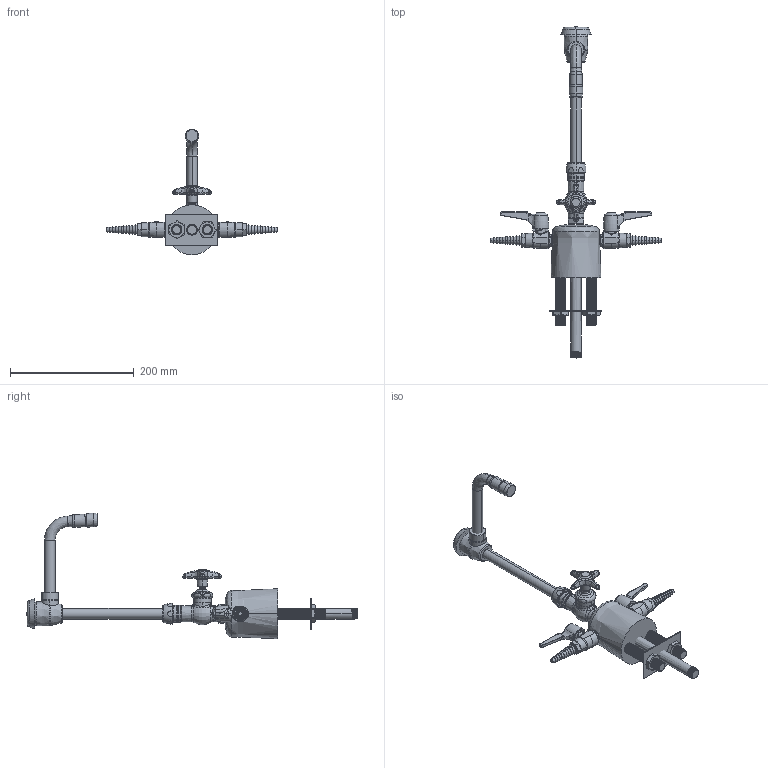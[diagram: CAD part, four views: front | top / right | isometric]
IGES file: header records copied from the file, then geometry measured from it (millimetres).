
Start section:  PTC IGES file: LCF1-CB-C1B2.igs
Global section: file name: LCF1-CB-C1B2.igs; native system: Creo Parametric by PTC Inc.; preprocessor: 2014500; author: usch_engrender; organization: Unknown; date: 20160208.113219; units: inch
Bounding box: 276.86 x 536.51 x 202.84 mm (x, y, z)
Surface area: 144316.8 mm2 (no closed solid volume)
Topology: 0 solids, 75 shells, 1063 faces, 2948 edges, 1916 vertices
Faces by surface type: revolution 646, bspline 417
